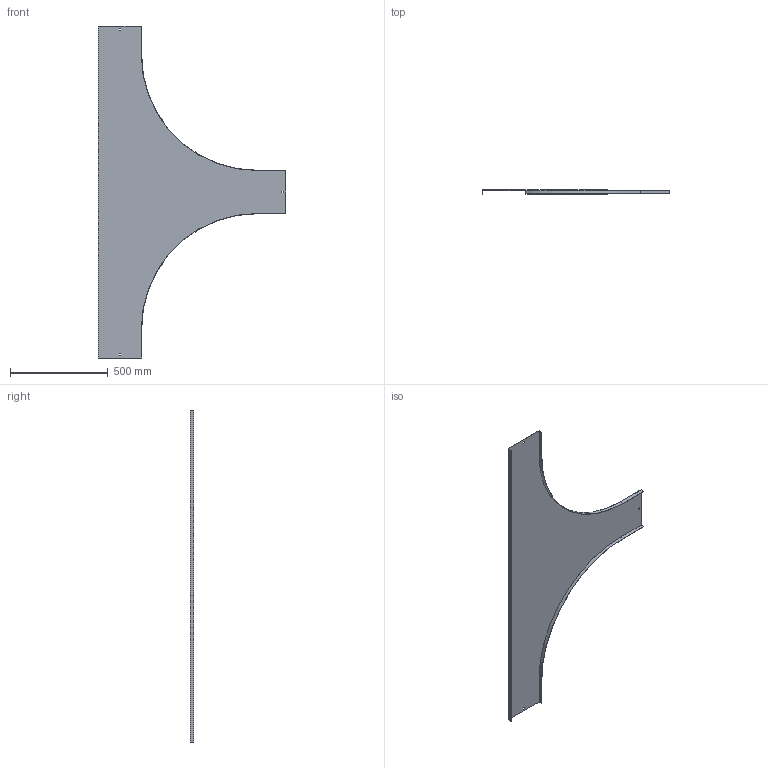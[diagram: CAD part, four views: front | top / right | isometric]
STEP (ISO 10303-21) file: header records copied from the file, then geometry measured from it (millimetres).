
FILE_DESCRIPTION (( 'STEP AP214' ), '1' );
FILE_NAME ('15N6P200.step', '2025-02-21T13:56:10', ( '' ), ( '' ), 'SwSTEP 2.0', 'SolidWorks 2023', '' );
FILE_SCHEMA (( 'AUTOMOTIVE_DESIGN' ));
Length unit declared in the file: millimetre
Products named in the file (1): 15N6P200
Bounding box: 961.5 x 20 x 1700 mm (x, y, z)
Volume: 1153581 mm3; surface area: 1545640.7 mm2
Topology: 1 solids, 1 shells, 34 faces, 96 edges, 64 vertices
Faces by surface type: plane 30, cylinder 4
Entity records: 1123 total; most frequent: CARTESIAN_POINT 195, ORIENTED_EDGE 192, DIRECTION 174, EDGE_CURVE 96, LINE 88, VECTOR 88, VERTEX_POINT 64, AXIS2_PLACEMENT_3D 43
